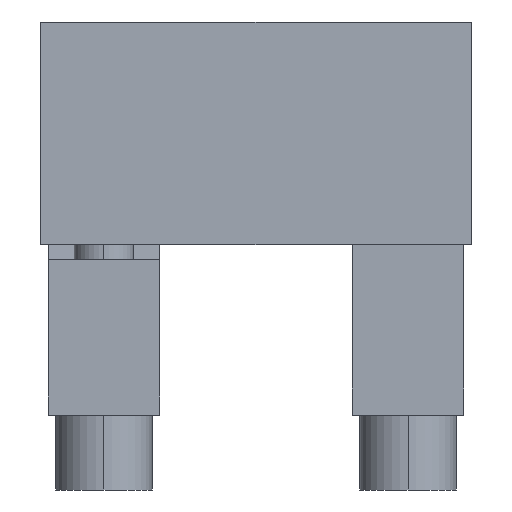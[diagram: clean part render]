
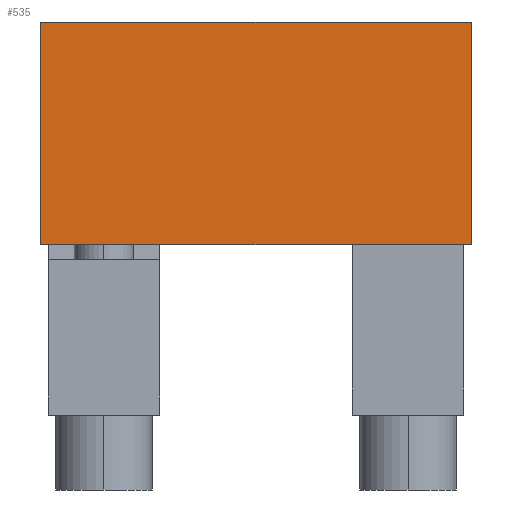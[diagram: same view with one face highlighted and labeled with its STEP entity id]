
A CAD part, front view. The second image highlights one B-rep face of the part: STEP entity #535.
In plain terms, the highlighted planar face has unit normal (0, -1, 0).
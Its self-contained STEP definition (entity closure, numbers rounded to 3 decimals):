
#535=ADVANCED_FACE('Pad.1',(#1339),#1340,.F.);
#1339=FACE_OUTER_BOUND('',#2444,.T.);
#1340=PLANE('',#2445);
#2444=EDGE_LOOP('',(#3868,#3869,#3870,#3871));
#2445=AXIS2_PLACEMENT_3D('',#3872,#3873,#3874);
#3868=ORIENTED_EDGE('',*,*,#6655,.F.);
#3869=ORIENTED_EDGE('',*,*,#6675,.T.);
#3870=ORIENTED_EDGE('',*,*,#6720,.T.);
#3871=ORIENTED_EDGE('',*,*,#6651,.F.);
#3872=CARTESIAN_POINT('',(0.0,-29.0,0.));
#3873=DIRECTION('',(0.0,1.0,0.0));
#3874=DIRECTION('',(0.0,0.0,1.0));
#6651=EDGE_CURVE('',#8038,#8040,#8041,.F.);
#6655=EDGE_CURVE('',#8044,#8038,#8046,.T.);
#6675=EDGE_CURVE('',#8044,#8075,#8077,.F.);
#6720=EDGE_CURVE('',#8075,#8040,#8141,.T.);
#8038=VERTEX_POINT('',#10339);
#8040=VERTEX_POINT('',#10342);
#8041=LINE('',#10343,#10344);
#8044=VERTEX_POINT('',#10348);
#8046=LINE('',#10351,#10352);
#8075=VERTEX_POINT('',#10381);
#8077=LINE('',#10384,#10385);
#8141=LINE('',#11036,#11037);
#10339=CARTESIAN_POINT('',(29.0,-29.0,30.0));
#10342=CARTESIAN_POINT('',(29.0,-29.0,0.));
#10343=CARTESIAN_POINT('',(29.0,-29.0,15.0));
#10344=VECTOR('',#13263,1.0);
#10348=CARTESIAN_POINT('',(-29.0,-29.0,30.0));
#10351=CARTESIAN_POINT('',(0.0,-29.0,30.0));
#10352=VECTOR('',#13266,1.0);
#10381=CARTESIAN_POINT('',(-29.0,-29.0,0.));
#10384=CARTESIAN_POINT('',(-29.0,-29.0,15.0));
#10385=VECTOR('',#13319,1.0);
#11036=CARTESIAN_POINT('',(0.0,-29.0,0.));
#11037=VECTOR('',#13335,1.0);
#13263=DIRECTION('',(0.0,0.0,1.0));
#13266=DIRECTION('',(1.0,0.0,0.0));
#13319=DIRECTION('',(0.0,0.0,1.0));
#13335=DIRECTION('',(1.0,0.0,0.0));
